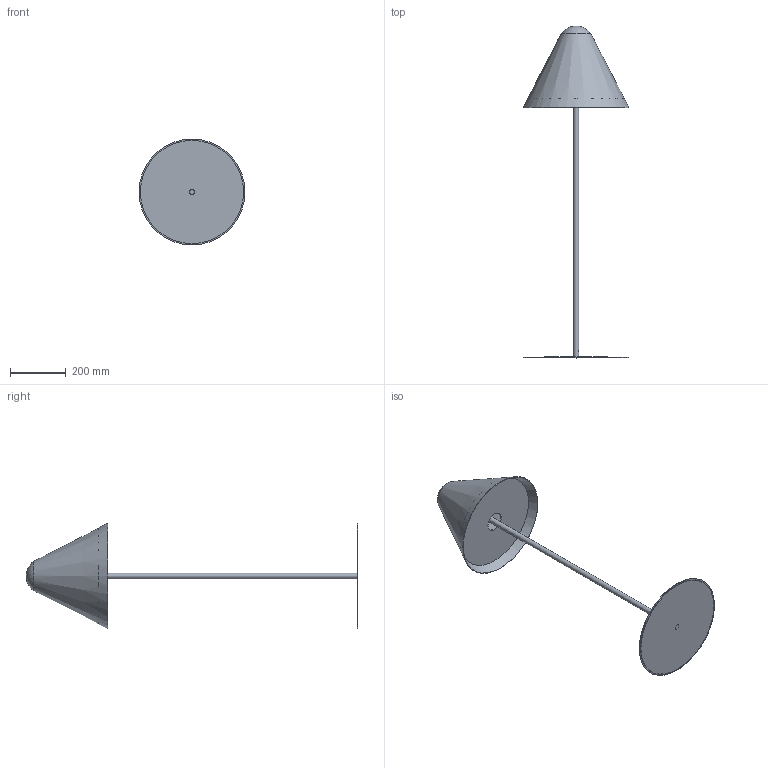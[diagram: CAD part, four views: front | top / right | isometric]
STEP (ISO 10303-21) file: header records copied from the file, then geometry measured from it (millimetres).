
FILE_DESCRIPTION(/* description */ (''),/* implementation_level */ '2;1');
FILE_NAME(/* name */ 'C:\Users\Giulia\Desktop\1556 - ABA 120.stp',/* time_stamp */ '2015-04-23T09:57:10+02:00',/* author */ ('Giulia'),/* organization */ (''),/* preprocessor_version */ 'ST-DEVELOPER v15.6',/* originating_system */ 'Autodesk Inventor 2015',/* authorisation */ '');
FILE_SCHEMA (('AUTOMOTIVE_DESIGN { 1 0 10303 214 3 1 1 }'));
Length unit declared in the file: centimetre
Products named in the file (1): 1556 - ABA 120
Bounding box: 380 x 1190.06 x 380 mm (x, y, z)
Volume: 1036057.1 mm3; surface area: 1050110.7 mm2
Topology: 3 solids, 5 shells, 55 faces, 105 edges, 61 vertices
Faces by surface type: cone 15, cylinder 14, bspline 12, plane 11, torus 2, sphere 1
Full cylindrical faces by diameter (mm): 5 x1, 6.75 x1, 17 x2, 20 x2, 25.307 x1, 35 x1, 39 x1, 40.94 x1, 68 x1, 343 x1, 370 x1, 380 x1
Entity records: 1661 total; most frequent: CARTESIAN_POINT 704, DIRECTION 198, ORIENTED_EDGE 136, AXIS2_PLACEMENT_3D 99, EDGE_LOOP 96, EDGE_CURVE 69, VERTEX_POINT 57, CIRCLE 55
